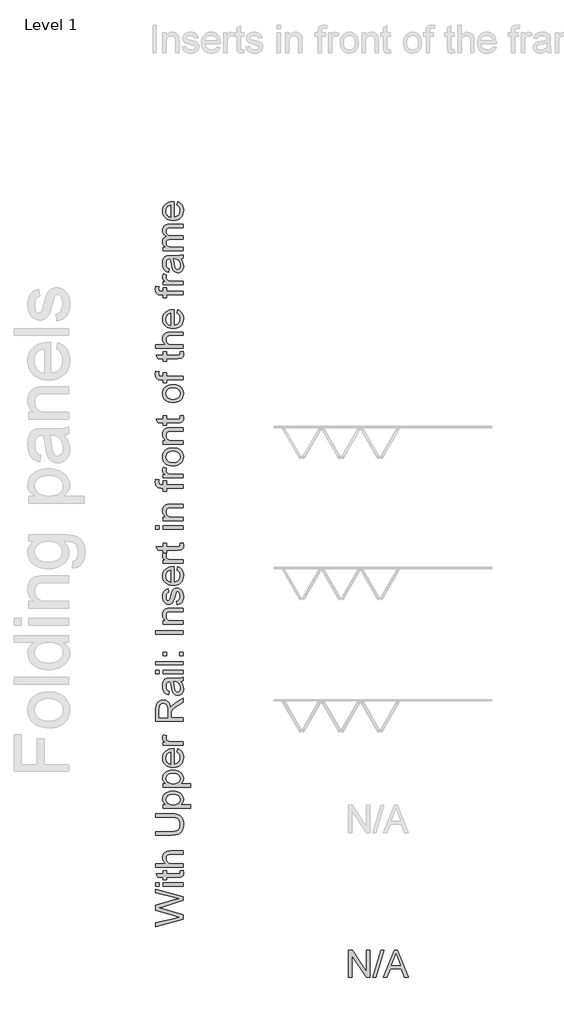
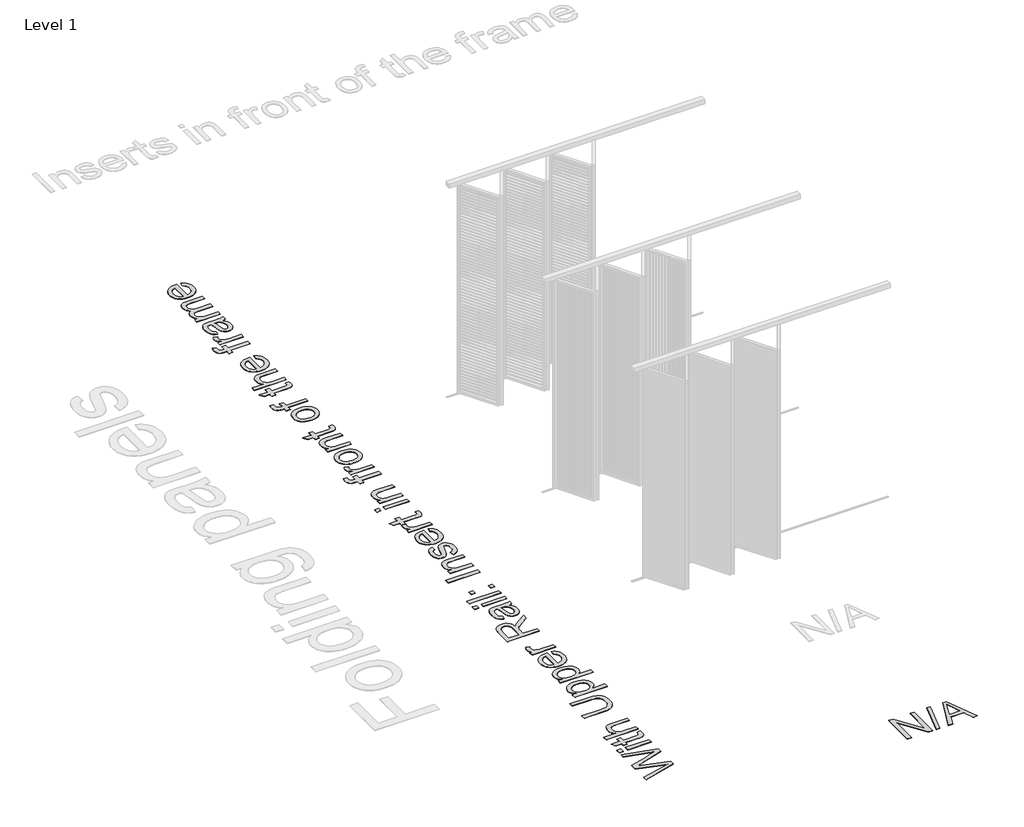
# One storey, part 17 of 80: 2 proxies.
"""IFC4 building model written with IfcOpenShell, lengths in millimetres."""

from ifc_helpers import new_model, si_unit, origin, origin_with_axes, place, context, project, spatial, polyline, outline, extrude, element, save

model = new_model("IFC4")

# Units and contexts
model_context = context("Model", 3, world=origin())
ifc_project = project(units=[si_unit("LENGTHUNIT", "METRE", prefix="MILLI")], contexts=[model_context])

# Site, building, storey
site = spatial("IfcSite", under=ifc_project)
building = spatial("IfcBuilding", under=site)
storey = spatial("IfcBuildingStorey", under=building, Name="Level 1", Elevation=0.0)

# Proxies
placement = place(None, origin())
element("IfcBuildingElementProxy", 1, Name="500mm Arial", ObjectType="500mm Arial", at=placement, inside=storey, context=model_context, shape_type="SweptSolid", body=[
    extrude(outline(polyline([(393682.1198654, -63862.1776025), (393682.1198654, -63359.8960518), (393749.3196432, -63359.8960518), (394011.7421331, -63757.8217432), (394011.7421331, -63359.8960518), (394074.5273269, -63359.8960518), (394074.5273269, -63862.1776025), (394007.3275491, -63862.1776025), (393744.9050592, -63464.1292837), (393744.9050592, -63862.1776025), (393682.1198654, -63862.1776025)])), origin_with_axes(), (0.0, 0.0, 1.0), 5.0),
    extrude(outline(polyline([(394322.1119097, -63862.1776025), (394522.607597, -63359.8960518), (394576.0731137, -63359.8960518), (394776.568801, -63862.1776025), (394710.2274146, -63862.1776025), (394652.715196, -63705.2146179), (394445.8428874, -63705.2146179), (394388.4532961, -63862.1776025), (394322.1119097, -63862.1776025)]), holes=[polyline([(394468.8968257, -63642.4294241), (394629.783885, -63642.4294241), (394584.5343995, -63518.943701), (394549.3403553, -63422.6812456), (394518.0703858, -63508.1524958), (394468.8968257, -63642.4294241)])]), origin_with_axes(), (0.0, 0.0, 1.0), 5.0),
    extrude(outline(polyline([(394129.4643715, -63862.1776025), (394270.7310577, -63359.8960518), (394327.3848849, -63359.8960518), (394186.1181988, -63862.1776025), (394129.4643715, -63862.1776025)])), origin_with_axes(), (0.0, 0.0, 1.0), 5.0),
])
element("IfcBuildingElementProxy", 2, Name="500mm Arial", ObjectType="500mm Arial", at=placement, inside=storey, context=model_context, shape_type="SweptSolid", body=[
    extrude(outline(polyline([(390638.2731482, -62789.962909), (390135.9915975, -62926.9376386), (390135.9915975, -62862.1904074), (390466.1043745, -62782.7278965), (390568.0076872, -62758.2024301), (390477.8765983, -62731.9601811), (390135.9915975, -62632.3867878), (390135.9915975, -62539.0673883), (390383.8214349, -62466.7172626), (390475.7919337, -62435.7232045), (390568.0076872, -62412.883864), (390469.0474305, -62389.0941616), (390135.9915975, -62308.8958867), (390135.9915975, -62244.1486555), (390638.2731482, -62381.2460124), (390638.2731482, -62448.3231629), (390250.77078, -62568.7432026), (390196.6921267, -62585.5431471), (390261.8072398, -62604.4277561), (390638.2731482, -62714.179218), (390638.2731482, -62789.962909)])), origin_with_axes(), (0.0, 0.0, 1.0), 5.0),
    extrude(outline(polyline([(390638.2731482, -62189.2116109), (390269.4101344, -62189.2116109), (390269.4101344, -62126.4264171), (390638.2731482, -62126.4264171), (390638.2731482, -62189.2116109)])), origin_with_axes(), (0.0, 0.0, 1.0), 5.0),
    extrude(outline(polyline([(390198.7767913, -62189.2116109), (390135.9915975, -62189.2116109), (390135.9915975, -62126.4264171), (390198.7767913, -62126.4264171), (390198.7767913, -62189.2116109)])), origin_with_axes(), (0.0, 0.0, 1.0), 5.0),
    extrude(outline(polyline([(390585.9112776, -61898.8300894), (390640.1125582, -61890.9819402), (390646.1212975, -61937.9482082), (390643.5154667, -61968.083875), (390635.6979743, -61990.5553335), (390623.6498389, -62006.435573), (390608.3520793, -62016.7975825), (390582.0791735, -62022.4997534), (390537.1055996, -62024.4004771), (390332.1953282, -62024.4004771), (390332.1953282, -62071.4893725), (390269.4101344, -62071.4893725), (390269.4101344, -62024.4004771), (390179.7695549, -62024.4004771), (390142.8587281, -61961.6152832), (390269.4101344, -61961.6152832), (390269.4101344, -61898.8300894), (390332.1953282, -61898.8300894), (390332.1953282, -61961.6152832), (390535.2661896, -61961.6152832), (390567.6398052, -61958.3043453), (390579.1054607, -61947.5744538), (390583.3361036, -61926.1759844), (390585.9112776, -61898.8300894)])), origin_with_axes(), (0.0, 0.0, 1.0), 5.0),
    extrude(outline(polyline([(390638.2731482, -61836.0448955), (390135.9915975, -61836.0448955), (390135.9915975, -61773.2597017), (390320.6683591, -61773.2597017), (390294.8093205, -61750.1980991), (390276.3385786, -61724.3007395), (390265.2561335, -61695.5676228), (390261.5619852, -61663.9987491), (390265.5933587, -61626.0762468), (390277.6874793, -61593.4880334), (390296.8939851, -61567.8282642), (390322.2625144, -61550.6910946), (390357.1193334, -61541.0341922), (390404.7907086, -61537.8152248), (390638.2731482, -61537.8152248), (390638.2731482, -61600.6004186), (390411.2899572, -61600.6004186), (390371.9878974, -61605.5974824), (390356.9813777, -61611.8438121), (390345.0711981, -61620.5886737), (390336.0044397, -61631.6251336), (390329.5281838, -61644.7462581), (390324.347179, -61677.242501), (390327.842058, -61703.7759899), (390338.3266948, -61728.6846666), (390354.7894141, -61749.3167152), (390376.2185403, -61763.0203195), (390404.6987381, -61770.6998562), (390442.3146721, -61773.2597017), (390638.2731482, -61773.2597017), (390638.2731482, -61836.0448955)])), origin_with_axes(), (0.0, 0.0, 1.0), 5.0),
    extrude(outline(polyline([(390135.9915975, -60917.8114356), (390135.9915975, -60855.0262417), (390425.7599824, -60855.0262417), (390493.618882, -60859.2875415), (390545.8734538, -60872.0714409), (390567.0649895, -60882.3031588), (390586.1871891, -60895.9531137), (390603.2400524, -60913.0213054), (390618.2235795, -60933.507734), (390630.4288311, -60957.4353922), (390639.146868, -60984.8272724), (390644.3776901, -61015.6833747), (390646.1212975, -61050.0036992), (390644.6037842, -61083.4771286), (390640.0512445, -61113.7545833), (390632.4636784, -61140.8360631), (390621.8410858, -61164.721568), (390608.340583, -61185.4149302), (390592.1192863, -61202.9199818), (390573.1771956, -61217.2367228), (390551.514311, -61228.3651532), (390526.3872043, -61236.7076438), (390497.0524473, -61242.6665657), (390425.7599824, -61247.4337033), (390135.9915975, -61247.4337033), (390135.9915975, -61184.6485094), (390423.5526904, -61184.6485094), (390479.9765914, -61181.5521693), (390519.2633228, -61172.2631489), (390546.471262, -61155.4325476), (390566.6587865, -61129.7114648), (390579.1667743, -61096.1728896), (390583.3361036, -61055.8898111), (390581.2744316, -61021.2859109), (390575.0894156, -60992.0316281), (390564.7810555, -60968.1269626), (390550.3493514, -60949.5719145), (390530.054528, -60935.676705), (390502.15681, -60925.7515553), (390466.6561975, -60919.7964655), (390423.5526904, -60917.8114356), (390135.9915975, -60917.8114356)])), origin_with_axes(), (0.0, 0.0, 1.0), 5.0),
    extrude(outline(polyline([(390779.5398344, -60753.0003017), (390269.4101344, -60753.0003017), (390269.4101344, -60690.2151079), (390330.9690549, -60690.2151079), (390300.6034619, -60669.7363435), (390278.9137526, -60646.8050325), (390265.899927, -60620.0722742), (390261.5619852, -60588.1891679), (390263.0794984, -60566.292525), (390267.6320381, -60545.7294543), (390275.2196042, -60526.4999558), (390285.8421969, -60508.6040296), (390299.2239044, -60492.4325502), (390315.0888155, -60478.3763923), (390354.268248, -60456.610041), (390400.5294088, -60443.4582596), (390451.0212127, -60439.0743325), (390504.7166556, -60444.025411), (390552.7405844, -60458.8786466), (390574.0164264, -60469.899778), (390592.6557808, -60483.1588583), (390608.6586476, -60498.6558873), (390622.0250268, -60516.3908652), (390640.0972298, -60555.0951168), (390646.1212975, -60595.7920625), (390642.0899239, -60624.6554707), (390629.9958033, -60650.4225388), (390611.7396593, -60672.4801301), (390589.2222155, -60690.2151079), (390779.5398344, -60690.2151079), (390779.5398344, -60753.0003017)]), holes=[polyline([(390456.7846973, -60690.2151079), (390487.0429914, -60688.5174858), (390513.0706425, -60683.4246194), (390534.8676508, -60674.9365088), (390552.434016, -60663.0531539), (390565.9536793, -60648.7479093), (390575.6105817, -60632.9941292), (390581.4047231, -60615.7918139), (390583.3361036, -60597.1409631), (390581.3357453, -60578.2218651), (390575.3346702, -60560.7053172), (390565.3328785, -60544.5913194), (390551.33037, -60529.8798717), (390533.1278755, -60517.6209706), (390510.5261254, -60508.8646127), (390483.5251198, -60503.610798), (390452.1248587, -60501.8595264), (390422.1271477, -60503.5686448), (390396.1454817, -60508.6960001), (390374.1798609, -60517.2415923), (390356.2302853, -60529.2054213), (390342.2814263, -60543.545155), (390332.3179556, -60559.2184608), (390326.3398732, -60576.2253389), (390324.347179, -60594.5657892), (390326.4663326, -60612.8487579), (390332.8237933, -60630.0510733), (390343.4195612, -60646.1727353), (390358.2536362, -60661.213744), (390377.126749, -60673.9018407), (390399.8396301, -60682.9647669), (390426.3922795, -60688.4025227), (390456.7846973, -60690.2151079)])]), origin_with_axes(), (0.0, 0.0, 1.0), 5.0),
    extrude(outline(polyline([(390779.5398344, -60368.4409895), (390269.4101344, -60368.4409895), (390269.4101344, -60305.6557956), (390330.9690549, -60305.6557956), (390300.6034619, -60285.1770312), (390278.9137526, -60262.2457202), (390265.899927, -60235.5129619), (390261.5619852, -60203.6298556), (390263.0794984, -60181.7332127), (390267.6320381, -60161.170142), (390275.2196042, -60141.9406436), (390285.8421969, -60124.0447173), (390299.2239044, -60107.873238), (390315.0888155, -60093.8170801), (390354.268248, -60072.0507287), (390400.5294088, -60058.8989473), (390451.0212127, -60054.5150202), (390504.7166556, -60059.4660988), (390552.7405844, -60074.3193343), (390574.0164264, -60085.3404658), (390592.6557808, -60098.599546), (390608.6586476, -60114.096575), (390622.0250268, -60131.8315529), (390640.0972298, -60170.5358045), (390646.1212975, -60211.2327502), (390642.0899239, -60240.0961584), (390629.9958033, -60265.8632265), (390611.7396593, -60287.9208178), (390589.2222155, -60305.6557956), (390779.5398344, -60305.6557956), (390779.5398344, -60368.4409895)]), holes=[polyline([(390456.7846973, -60305.6557956), (390487.0429914, -60303.9581735), (390513.0706425, -60298.8653071), (390534.8676508, -60290.3771965), (390552.434016, -60278.4938416), (390565.9536793, -60264.188597), (390575.6105817, -60248.4348169), (390581.4047231, -60231.2325016), (390583.3361036, -60212.5816508), (390581.3357453, -60193.6625528), (390575.3346702, -60176.1460049), (390565.3328785, -60160.0320071), (390551.33037, -60145.3205594), (390533.1278755, -60133.0616583), (390510.5261254, -60124.3053004), (390483.5251198, -60119.0514857), (390452.1248587, -60117.3002141), (390422.1271477, -60119.0093325), (390396.1454817, -60124.1366878), (390374.1798609, -60132.68228), (390356.2302853, -60144.6461091), (390342.2814263, -60158.9858427), (390332.3179556, -60174.6591485), (390326.3398732, -60191.6660266), (390324.347179, -60210.0064769), (390326.4663326, -60228.2894456), (390332.8237933, -60245.491761), (390343.4195612, -60261.613423), (390358.2536362, -60276.6544317), (390377.126749, -60289.3425284), (390399.8396301, -60298.4054546), (390426.3922795, -60303.8432104), (390456.7846973, -60305.6557956)])]), origin_with_axes(), (0.0, 0.0, 1.0), 5.0),
    extrude(outline(polyline([(390528.399059, -59725.6285166), (390536.2472082, -59664.069596), (390560.9029661, -59673.5080685), (390582.6309965, -59686.2498146), (390601.4312993, -59702.2948346), (390617.3038745, -59721.6431283), (390629.9114971, -59744.0954263), (390638.9169417, -59769.4524592), (390644.3202085, -59797.7142271), (390646.1212975, -59828.8807299), (390643.013461, -59867.8379003), (390633.6899517, -59902.5490994), (390618.1507695, -59933.0143271), (390596.3959144, -59959.2335835), (390569.030859, -59980.3178203), (390536.6610755, -59995.3779895), (390499.286564, -60004.414091), (390456.9073246, -60007.4261249), (390413.0910461, -60004.3834342), (390374.4711009, -59995.2553622), (390341.0474888, -59980.0419088), (390312.8202098, -59958.7430742), (390290.3947365, -59932.5927957), (390274.3765413, -59902.8250109), (390264.7656242, -59869.4397198), (390261.5619852, -59832.4369225), (390264.75796, -59796.6259095), (390274.3458845, -59764.2407976), (390290.3257587, -59735.2815868), (390312.6975825, -59709.7482771), (390340.8635478, -59688.9054628), (390374.2258462, -59674.0177383), (390412.7844778, -59665.0851036), (390456.5394426, -59662.1075587), (390473.4620144, -59662.4754407), (390473.4620144, -59944.640931), (390498.5163111, -59941.0042642), (390520.4589393, -59933.7730837), (390539.2898989, -59922.9473896), (390555.00919, -59908.5271818), (390567.4022147, -59891.309538), (390576.2543752, -59872.0915359), (390581.5656715, -59850.8731754), (390583.3361036, -59827.6544565), (390580.0558225, -59794.2385087), (390570.2149791, -59766.095536), (390553.2004368, -59743.2255387), (390528.399059, -59725.6285166)]), holes=[polyline([(390410.6768206, -59944.640931), (390410.6768206, -59724.8927526), (390377.5061273, -59733.3846953), (390353.7777386, -59750.0313556), (390340.9018688, -59767.1531968), (390331.7048189, -59786.6356141), (390326.186589, -59808.4786075), (390324.347179, -59832.6821771), (390330.2179625, -59875.003935), (390337.5564419, -59893.4171953), (390347.830313, -59909.9987098), (390360.564395, -59923.9130798), (390375.2835069, -59934.3249067), (390391.9876488, -59941.2341905), (390410.6768206, -59944.640931)])]), origin_with_axes(), (0.0, 0.0, 1.0), 5.0),
    extrude(outline(polyline([(390638.2731482, -59599.3223649), (390269.4101344, -59599.3223649), (390269.4101344, -59544.3853203), (390323.979297, -59544.3853203), (390292.3414454, -59524.0904969), (390273.702091, -59505.3898288), (390264.5970116, -59486.627847), (390261.5619852, -59466.1490826), (390266.4057648, -59434.879113), (390280.9371036, -59403.1186341), (390337.2230488, -59424.0879078), (390327.5661465, -59446.1608275), (390324.347179, -59468.2337473), (390327.4435191, -59486.9804006), (390336.7325395, -59503.7343598), (390351.509133, -59517.2693515), (390371.0681924, -59526.3591025), (390406.1396093, -59533.9926539), (390444.3993368, -59536.537171), (390638.2731482, -59536.537171), (390638.2731482, -59599.3223649)])), origin_with_axes(), (0.0, 0.0, 1.0), 5.0),
    extrude(outline(polyline([(390638.2731482, -59159.826008), (390135.9915975, -59159.826008), (390135.9915975, -58943.3887675), (390139.3791775, -58885.217427), (390149.5419176, -58842.8956691), (390168.3038994, -58811.9629247), (390197.4892043, -58787.9586245), (390233.6795956, -58772.553566), (390273.4568363, -58767.4185464), (390299.2545613, -58769.5453642), (390322.9369647, -58775.9258176), (390344.5040467, -58786.5599065), (390363.9558072, -58801.447631), (390380.6714453, -58820.7805963), (390394.0301603, -58844.7504075), (390404.031952, -58873.3570647), (390410.6768206, -58906.600568), (390424.1964839, -58885.9072057), (390437.5322062, -58870.9160144), (390502.15681, -58820.0256718), (390638.2731482, -58736.2712042), (390638.2731482, -58809.2344666), (390534.1625436, -58874.5948344), (390465.2459832, -58921.8063571), (390445.1504292, -58939.3573939), (390432.6884266, -58954.9770503), (390420.7322618, -58984.8368056), (390418.5249698, -59021.2571231), (390418.5249698, -59097.0408141), (390638.2731482, -59097.0408141), (390638.2731482, -59159.826008)]), holes=[polyline([(390355.7397759, -59097.0408141), (390355.7397759, -58956.509892), (390353.5171555, -58916.1501714), (390346.8492944, -58884.8342166), (390335.2916684, -58861.259112), (390318.3997534, -58844.1219424), (390297.9669743, -58833.6832908), (390275.7867557, -58830.2037403), (390259.7302394, -58831.8630414), (390245.1605796, -58836.8409446), (390232.0777761, -58845.13745), (390220.481829, -58856.7525576), (390210.985875, -58871.9545146), (390204.2030508, -58891.0115684), (390198.7767913, -58940.6909662), (390198.7767913, -59097.0408141), (390355.7397759, -59097.0408141)])]), origin_with_axes(), (0.0, 0.0, 1.0), 5.0),
    extrude(outline(polyline([(390591.1842529, -58429.9481295), (390616.9053357, -58459.9458406), (390633.735937, -58490.8325997), (390643.0249573, -58523.3135142), (390646.1212975, -58558.0936912), (390644.2588949, -58586.0488907), (390638.6716871, -58610.5628608), (390629.3596741, -58631.6356013), (390616.3228559, -58649.2671123), (390600.3889669, -58663.1891466), (390582.3857418, -58673.1334568), (390562.3131804, -58679.1000429), (390540.1712829, -58681.0889049), (390514.1436317, -58678.0845353), (390490.5072135, -58669.0714264), (390470.2737038, -58655.1685527), (390454.454778, -58637.4948885), (390442.4986131, -58616.7248842), (390433.8533862, -58593.5329901), (390424.4110817, -58539.2090821), (390414.4782678, -58475.0136739), (390402.8286713, -58430.3160115), (390388.8491555, -58429.9481295), (390360.8288102, -58434.270743), (390342.4960241, -58447.2385833), (390334.5559044, -58460.3137226), (390328.8843903, -58476.2399473), (390324.347179, -58516.6456531), (390327.3668771, -58554.0469892), (390336.4259712, -58580.1666109), (390353.1799304, -58597.9782308), (390379.2842236, -58610.4555618), (390371.4360744, -58673.2407557), (390337.1004215, -58662.3422516), (390310.1224085, -58646.0788017), (390289.49036, -58622.9328928), (390274.1926003, -58591.3870118), (390264.719639, -58552.8053875), (390261.5619852, -58508.5522492), (390264.351757, -58466.107864), (390272.7210724, -58432.4619898), (390285.3057023, -58407.0934606), (390300.7414177, -58389.4811101), (390319.8252962, -58377.8008567), (390343.3544154, -58370.228619), (390398.29146, -58367.1629357), (390476.4050704, -58367.1629357), (390585.4820819, -58363.9746251), (390612.4447665, -58359.2534728), (390638.2731482, -58351.4666372), (390638.2731482, -58414.2518311), (390616.4454832, -58424.3072723), (390591.1842529, -58429.9481295)]), holes=[polyline([(390465.6138652, -58429.9481295), (390476.0678452, -58472.1319317), (390484.8663562, -58531.2383055), (390495.0444248, -58585.2556452), (390502.0035259, -58599.3118031), (390511.5991146, -58609.7197978), (390523.0954269, -58616.1577328), (390535.7566989, -58618.3037111), (390554.4267102, -58613.628544), (390569.7244698, -58599.603043), (390579.9331952, -58576.5337762), (390583.3361036, -58544.727312), (390579.5806416, -58511.0047958), (390568.3142555, -58481.2063542), (390551.7135805, -58457.0487698), (390531.9552516, -58440.2488254), (390511.5991146, -58432.799215), (390483.3948283, -58430.3160115), (390465.6138652, -58429.9481295)])]), origin_with_axes(), (0.0, 0.0, 1.0), 5.0),
    extrude(outline(polyline([(390638.2731482, -58280.8332942), (390269.4101344, -58280.8332942), (390269.4101344, -58218.0481003), (390638.2731482, -58218.0481003), (390638.2731482, -58280.8332942)])), origin_with_axes(), (0.0, 0.0, 1.0), 5.0),
    extrude(outline(polyline([(390198.7767913, -58280.8332942), (390135.9915975, -58280.8332942), (390135.9915975, -58218.0481003), (390198.7767913, -58218.0481003), (390198.7767913, -58280.8332942)])), origin_with_axes(), (0.0, 0.0, 1.0), 5.0),
    extrude(outline(polyline([(390638.2731482, -58123.8703096), (390135.9915975, -58123.8703096), (390135.9915975, -58061.0851157), (390638.2731482, -58061.0851157), (390638.2731482, -58123.8703096)])), origin_with_axes(), (0.0, 0.0, 1.0), 5.0),
    extrude(outline(polyline([(390638.2731482, -57951.2110265), (390575.4879544, -57951.2110265), (390575.4879544, -57888.4258326), (390638.2731482, -57888.4258326), (390638.2731482, -57951.2110265)])), origin_with_axes(), (0.0, 0.0, 1.0), 5.0),
    extrude(outline(polyline([(390332.1953282, -57951.2110265), (390269.4101344, -57951.2110265), (390269.4101344, -57888.4258326), (390332.1953282, -57888.4258326), (390332.1953282, -57951.2110265)])), origin_with_axes(), (0.0, 0.0, 1.0), 5.0),
    extrude(outline(polyline([(390638.2731482, -57558.803565), (390135.9915975, -57558.803565), (390135.9915975, -57496.0183711), (390638.2731482, -57496.0183711), (390638.2731482, -57558.803565)])), origin_with_axes(), (0.0, 0.0, 1.0), 5.0),
    extrude(outline(polyline([(390638.2731482, -57378.2961327), (390269.4101344, -57378.2961327), (390269.4101344, -57315.5109388), (390320.9136137, -57315.5109388), (390294.9472762, -57293.6986022), (390276.3998923, -57267.5023384), (390265.271462, -57236.9221476), (390261.5619852, -57201.9580296), (390264.5510264, -57171.0099568), (390273.51815, -57142.6677147), (390287.3443817, -57119.0312966), (390304.9107469, -57102.2006953), (390326.1712606, -57090.781025), (390351.0799373, -57083.3773999), (390411.7804665, -57080.0664619), (390638.2731482, -57080.0664619), (390638.2731482, -57142.8516557), (390420.2417524, -57142.8516557), (390387.7761664, -57144.6604089), (390364.6915712, -57150.0866683), (390348.1522098, -57160.0961243), (390335.3223252, -57175.654467), (390327.0909656, -57195.5967368), (390324.347179, -57218.7579741), (390325.8876849, -57237.8226921), (390330.5092024, -57255.5308452), (390338.2117317, -57271.8824334), (390348.9952727, -57286.8774569), (390364.0860987, -57299.4046052), (390384.7104831, -57308.3525683), (390410.8684258, -57313.7213462), (390442.5599268, -57315.5109388), (390638.2731482, -57315.5109388), (390638.2731482, -57378.2961327)])), origin_with_axes(), (0.0, 0.0, 1.0), 5.0),
    extrude(outline(polyline([(390528.399059, -57017.2812681), (390520.5509098, -56954.4960742), (390547.4062954, -56944.5939172), (390567.1492958, -56925.4333966), (390579.2894017, -56896.8918851), (390583.3361036, -56858.8467555), (390579.6266268, -56821.2614783), (390568.4981965, -56794.8352883), (390552.3727024, -56779.2003035), (390533.6720343, -56773.9886419), (390517.6691675, -56779.2309603), (390505.467748, -56794.9579156), (390487.5641575, -56859.5825195), (390470.9941393, -56916.8801402), (390456.8460109, -56954.1281922), (390441.4102956, -56978.0558503), (390420.9775164, -56995.3922893), (390396.8505889, -57005.9229115), (390370.3324284, -57009.4331188), (390346.0062315, -57006.6126902), (390323.5501014, -56998.1514043), (390303.8530862, -56984.815682), (390287.8042342, -56967.371944), (390277.7028077, -56950.035505), (390269.2261934, -56927.4567476), (390263.4780372, -56901.3524543), (390261.5619852, -56873.4394079), (390264.6429969, -56832.5738496), (390273.886032, -56797.0425803), (390288.386714, -56768.470412), (390307.2406662, -56748.4821569), (390331.8427747, -56735.2384051), (390363.5879252, -56726.8997465), (390371.4360744, -56789.6849404), (390351.6777456, -56797.6097317), (390336.7938532, -56813.2907017), (390327.4588476, -56836.8811347), (390324.347179, -56868.5343147), (390327.3208918, -56904.5867502), (390336.2420302, -56928.6217072), (390349.1179, -56942.1413705), (390363.9558072, -56946.647925), (390373.6127095, -56944.7778582), (390382.2272796, -56939.1676577), (390389.9221447, -56929.572069), (390396.0841681, -56915.7458374), (390409.4505472, -56861.6671841), (390439.0037342, -56769.5127443), (390453.1365342, -56745.171219), (390472.4809957, -56726.7158055), (390497.0984326, -56715.0815374), (390527.0501584, -56711.2034481), (390558.0135596, -56715.7559878), (390587.1375509, -56729.4136068), (390612.1381982, -56751.6551391), (390630.7315673, -56781.9594185), (390642.2738649, -56818.563677), (390646.1212975, -56859.7051468), (390644.2665591, -56893.4966409), (390638.7023439, -56923.0115068), (390629.4286519, -56948.2497445), (390616.4454832, -56969.211354), (390599.8141513, -56986.3331952), (390579.59597, -57000.052128), (390555.7909392, -57010.3681522), (390528.399059, -57017.2812681)])), origin_with_axes(), (0.0, 0.0, 1.0), 5.0),
    extrude(outline(polyline([(390528.399059, -56382.3169444), (390536.2472082, -56320.7580239), (390560.9029661, -56330.1964963), (390582.6309965, -56342.9382425), (390601.4312993, -56358.9832624), (390617.3038745, -56378.3315561), (390629.9114971, -56400.7838541), (390638.9169417, -56426.1408871), (390644.3202085, -56454.4026549), (390646.1212975, -56485.5691577), (390643.013461, -56524.5263281), (390633.6899517, -56559.2375272), (390618.1507695, -56589.702755), (390596.3959144, -56615.9220113), (390569.030859, -56637.0062482), (390536.6610755, -56652.0664173), (390499.286564, -56661.1025189), (390456.9073246, -56664.1145527), (390413.0910461, -56661.071862), (390374.4711009, -56651.94379), (390341.0474888, -56636.7303367), (390312.8202098, -56615.431502), (390290.3947365, -56589.2812235), (390274.3765413, -56559.5134387), (390264.7656242, -56526.1281477), (390261.5619852, -56489.1253503), (390264.75796, -56453.3143373), (390274.3458845, -56420.9292255), (390290.3257587, -56391.9700147), (390312.6975825, -56366.4367049), (390340.8635478, -56345.5938906), (390374.2258462, -56330.7061661), (390412.7844778, -56321.7735314), (390456.5394426, -56318.7959865), (390473.4620144, -56319.1638685), (390473.4620144, -56601.3293588), (390498.5163111, -56597.692692), (390520.4589393, -56590.4615116), (390539.2898989, -56579.6358174), (390555.00919, -56565.2156097), (390567.4022147, -56547.9979659), (390576.2543752, -56528.7799637), (390581.5656715, -56507.5616032), (390583.3361036, -56484.3428844), (390580.0558225, -56450.9269365), (390570.2149791, -56422.7839639), (390553.2004368, -56399.9139665), (390528.399059, -56382.3169444)]), holes=[polyline([(390410.6768206, -56601.3293588), (390410.6768206, -56381.5811804), (390377.5061273, -56390.0731231), (390353.7777386, -56406.7197834), (390340.9018688, -56423.8416246), (390331.7048189, -56443.3240419), (390326.186589, -56465.1670354), (390324.347179, -56489.370605), (390330.2179625, -56531.6923628), (390337.5564419, -56550.1056231), (390347.830313, -56566.6871376), (390360.564395, -56580.6015077), (390375.2835069, -56591.0133346), (390391.9876488, -56597.9226183), (390410.6768206, -56601.3293588)])]), origin_with_axes(), (0.0, 0.0, 1.0), 5.0),
    extrude(outline(polyline([(390585.9112776, -55887.1477789), (390640.1125582, -55879.2996296), (390646.1212975, -55926.2658977), (390643.5154667, -55956.4015645), (390635.6979743, -55978.873023), (390623.6498389, -55994.7532625), (390608.3520793, -56005.115272), (390582.0791735, -56010.8174429), (390537.1055996, -56012.7181666), (390332.1953282, -56012.7181666), (390332.1953282, -56059.8070619), (390280.9371036, -56059.8070619), (390269.4101344, -56059.8070619), (390269.4101344, -56012.7181666), (390179.7695549, -56012.7181666), (390142.8587281, -55949.9329727), (390269.4101344, -55949.9329727), (390269.4101344, -55887.1477789), (390332.1953282, -55887.1477789), (390332.1953282, -55949.9329727), (390535.2661896, -55949.9329727), (390567.6398052, -55946.6220348), (390579.1054607, -55935.8921432), (390583.3361036, -55914.4936739), (390585.9112776, -55887.1477789)])), origin_with_axes(), (0.0, 0.0, 1.0), 5.0),
    extrude(outline(polyline([(390638.2731482, -56256.0107927), (390269.4101344, -56256.0107927), (390269.4101344, -56201.0737481), (390323.979297, -56201.0737481), (390292.3414454, -56180.7789247), (390273.702091, -56162.0782566), (390264.5970116, -56143.3162749), (390261.5619852, -56122.8375105), (390266.4057648, -56091.5675409), (390280.9371036, -56059.8070619), (390337.2230488, -56080.7763357), (390327.5661465, -56102.8492554), (390324.347179, -56124.9221751), (390327.4435191, -56143.6688284), (390336.7325395, -56160.4227876), (390351.509133, -56173.9577794), (390371.0681924, -56183.0475303), (390406.1396093, -56190.6810817), (390444.3993368, -56193.2255989), (390638.2731482, -56193.2255989), (390638.2731482, -56256.0107927)])), origin_with_axes(), (0.0, 0.0, 1.0), 5.0),
    extrude(outline(polyline([(390198.7767913, -55628.1588543), (390135.9915975, -55628.1588543), (390135.9915975, -55565.3736604), (390198.7767913, -55565.3736604), (390198.7767913, -55628.1588543)])), origin_with_axes(), (0.0, 0.0, 1.0), 5.0),
    extrude(outline(polyline([(390638.2731482, -55628.1588543), (390269.4101344, -55628.1588543), (390269.4101344, -55565.3736604), (390638.2731482, -55565.3736604), (390638.2731482, -55628.1588543)])), origin_with_axes(), (0.0, 0.0, 1.0), 5.0),
    extrude(outline(polyline([(390638.2731482, -55471.1958697), (390269.4101344, -55471.1958697), (390269.4101344, -55408.4106758), (390320.9136137, -55408.4106758), (390294.9472762, -55386.5983392), (390276.3998923, -55360.4020754), (390265.271462, -55329.8218846), (390261.5619852, -55294.8577666), (390264.5510264, -55263.9096938), (390273.51815, -55235.5674518), (390287.3443817, -55211.9310336), (390304.9107469, -55195.1004323), (390326.1712606, -55183.680762), (390351.0799373, -55176.2771369), (390411.7804665, -55172.9661989), (390638.2731482, -55172.9661989), (390638.2731482, -55235.7513927), (390420.2417524, -55235.7513927), (390387.7761664, -55237.5601459), (390364.6915712, -55242.9864053), (390348.1522098, -55252.9958613), (390335.3223252, -55268.554204), (390327.0909656, -55288.4964738), (390324.347179, -55311.6577111), (390325.8876849, -55330.7224291), (390330.5092024, -55348.4305822), (390338.2117317, -55364.7821705), (390348.9952727, -55379.7771939), (390364.0860987, -55392.3043422), (390384.7104831, -55401.2523053), (390410.8684258, -55406.6210832), (390442.5599268, -55408.4106758), (390638.2731482, -55408.4106758), (390638.2731482, -55471.1958697)])), origin_with_axes(), (0.0, 0.0, 1.0), 5.0),
    extrude(outline(polyline([(390638.2731482, -54874.7365281), (390332.1953282, -54874.7365281), (390332.1953282, -54929.6735728), (390269.4101344, -54929.6735728), (390269.4101344, -54874.7365281), (390232.2540529, -54874.7365281), (390201.5052495, -54873.0810592), (390179.8921822, -54868.1146522), (390159.014879, -54855.4840371), (390142.4908461, -54835.9862913), (390131.7302977, -54808.70171), (390128.1434483, -54772.7105882), (390135.0105788, -54715.4436242), (390193.8716981, -54724.6406741), (390190.9286421, -54760.815737), (390193.5344729, -54784.6820814), (390201.3519653, -54800.3630515), (390216.2818429, -54809.0542636), (390240.2248295, -54811.9513343), (390269.4101344, -54811.9513343), (390269.4101344, -54741.3179912), (390332.1953282, -54741.3179912), (390332.1953282, -54811.9513343), (390638.2731482, -54811.9513343), (390638.2731482, -54874.7365281)])), origin_with_axes(), (0.0, 0.0, 1.0), 5.0),
    extrude(outline(polyline([(390638.2731482, -54686.3809466), (390269.4101344, -54686.3809466), (390269.4101344, -54631.443902), (390323.979297, -54631.443902), (390292.3414454, -54611.1490786), (390273.702091, -54592.4484105), (390264.5970116, -54573.6864288), (390261.5619852, -54553.2076644), (390266.4057648, -54521.9376948), (390280.9371036, -54490.1772159), (390337.2230488, -54511.1464896), (390327.5661465, -54533.2194093), (390324.347179, -54555.292329), (390327.4435191, -54574.0389823), (390336.7325395, -54590.7929415), (390351.509133, -54604.3279333), (390371.0681924, -54613.4176842), (390406.1396093, -54621.0512356), (390444.3993368, -54623.5957528), (390638.2731482, -54623.5957528), (390638.2731482, -54686.3809466)])), origin_with_axes(), (0.0, 0.0, 1.0), 5.0),
    extrude(outline(polyline([(390453.8416413, -54466.6327682), (390406.0706314, -54463.2375239), (390364.906169, -54453.0517912), (390330.3482541, -54436.0755699), (390302.3968866, -54412.3088602), (390284.5316172, -54388.3812021), (390271.7707105, -54361.9703405), (390264.1141665, -54333.0762755), (390261.5619852, -54301.699007), (390264.6698216, -54267.0606179), (390273.9933309, -54235.7408309), (390289.5325131, -54207.7396462), (390311.2873682, -54183.0570636), (390338.5221321, -54162.9116922), (390370.501041, -54148.5221413), (390407.2240947, -54139.8884107), (390448.6912934, -54137.0105005), (390512.1202807, -54142.0995348), (390538.1555961, -54148.4608276), (390560.4047926, -54157.3666376), (390579.6227947, -54168.7058336), (390596.564527, -54182.3672848), (390611.2299895, -54198.3509911), (390623.6191821, -54216.6569524), (390640.4957686, -54257.384555), (390646.1212975, -54301.699007), (390643.0249573, -54336.8432338), (390633.735937, -54368.4542607), (390618.2542363, -54396.5320876), (390596.5798554, -54421.0767144), (390569.0806763, -54441.0074879), (390536.1245809, -54455.2437547), (390497.7115692, -54463.7855148), (390453.8416413, -54466.6327682)]), holes=[polyline([(390453.719014, -54403.8475743), (390484.1727454, -54402.031157), (390510.5414538, -54396.5819049), (390532.8251393, -54387.4998182), (390551.0238017, -54374.7848967), (390565.1604338, -54359.3185245), (390575.2580281, -54341.9820855), (390581.3165848, -54322.7755796), (390583.3361036, -54301.699007), (390581.3050884, -54280.7297333), (390575.2120429, -54261.5998695), (390565.056967, -54244.3094157), (390550.8398607, -54228.858372), (390532.4610894, -54216.1434505), (390509.8210183, -54207.0613637), (390482.9196474, -54201.6121117), (390451.7569767, -54199.7956943), (390422.2689355, -54201.623608), (390396.5900058, -54207.107349), (390374.7201876, -54216.2469173), (390356.6594809, -54229.0423129), (390342.5228488, -54244.5508383), (390332.4252545, -54261.8297958), (390326.3666979, -54280.8791853), (390324.347179, -54301.699007), (390326.3590337, -54322.7755796), (390332.3945977, -54341.9820855), (390342.453871, -54359.3185245), (390356.5368536, -54374.7848967), (390374.6818666, -54387.4998182), (390396.927231, -54396.5819049), (390423.2729468, -54402.031157), (390453.719014, -54403.8475743)])]), origin_with_axes(), (0.0, 0.0, 1.0), 5.0),
    extrude(outline(polyline([(390638.2731482, -54066.3771574), (390269.4101344, -54066.3771574), (390269.4101344, -54003.5919636), (390320.9136137, -54003.5919636), (390294.9472762, -53981.7796269), (390276.3998923, -53955.5833632), (390265.271462, -53925.0031724), (390261.5619852, -53890.0390544), (390264.5510264, -53859.0909815), (390273.51815, -53830.7487395), (390287.3443817, -53807.1123213), (390304.9107469, -53790.28172), (390326.1712606, -53778.8620498), (390351.0799373, -53771.4584246), (390411.7804665, -53768.1474867), (390638.2731482, -53768.1474867), (390638.2731482, -53830.9326805), (390420.2417524, -53830.9326805), (390387.7761664, -53832.7414336), (390364.6915712, -53838.1676931), (390348.1522098, -53848.177149), (390335.3223252, -53863.7354917), (390327.0909656, -53883.6777616), (390324.347179, -53906.8389988), (390325.8876849, -53925.9037168), (390330.5092024, -53943.6118699), (390338.2117317, -53959.9634582), (390348.9952727, -53974.9584816), (390364.0860987, -53987.48563), (390384.7104831, -53996.4335931), (390410.8684258, -54001.8023709), (390442.5599268, -54003.5919636), (390638.2731482, -54003.5919636), (390638.2731482, -54066.3771574)])), origin_with_axes(), (0.0, 0.0, 1.0), 5.0),
    extrude(outline(polyline([(390585.9112776, -53548.3993082), (390640.1125582, -53540.551159), (390646.1212975, -53587.517427), (390643.5154667, -53617.6530938), (390635.6979743, -53640.1245523), (390623.6498389, -53656.0047918), (390608.3520793, -53666.3668013), (390582.0791735, -53672.0689723), (390537.1055996, -53673.9696959), (390332.1953282, -53673.9696959), (390332.1953282, -53721.0585913), (390269.4101344, -53721.0585913), (390269.4101344, -53673.9696959), (390179.7695549, -53673.9696959), (390142.8587281, -53611.184502), (390269.4101344, -53611.184502), (390269.4101344, -53548.3993082), (390332.1953282, -53548.3993082), (390332.1953282, -53611.184502), (390535.2661896, -53611.184502), (390567.6398052, -53607.8735641), (390579.1054607, -53597.1436726), (390583.3361036, -53575.7452032), (390585.9112776, -53548.3993082)])), origin_with_axes(), (0.0, 0.0, 1.0), 5.0),
    extrude(outline(polyline([(390453.8416413, -53305.1066821), (390406.0706314, -53301.7114378), (390364.906169, -53291.5257051), (390330.3482541, -53274.5494838), (390302.3968866, -53250.7827741), (390284.5316172, -53226.855116), (390271.7707105, -53200.4442544), (390264.1141665, -53171.5501894), (390261.5619852, -53140.1729209), (390264.6698216, -53105.5345318), (390273.9933309, -53074.2147448), (390289.5325131, -53046.2135601), (390311.2873682, -53021.5309774), (390338.5221321, -53001.3856061), (390370.501041, -52986.9960551), (390407.2240947, -52978.3623246), (390448.6912934, -52975.4844144), (390512.1202807, -52980.5734486), (390538.1555961, -52986.9347415), (390560.4047926, -52995.8405514), (390579.6227947, -53007.1797475), (390596.564527, -53020.8411987), (390611.2299895, -53036.824905), (390623.6191821, -53055.1308663), (390640.4957686, -53095.8584689), (390646.1212975, -53140.1729209), (390643.0249573, -53175.3171477), (390633.735937, -53206.9281746), (390618.2542363, -53235.0060015), (390596.5798554, -53259.5506283), (390569.0806763, -53279.4814018), (390536.1245809, -53293.7176686), (390497.7115692, -53302.2594287), (390453.8416413, -53305.1066821)]), holes=[polyline([(390453.719014, -53242.3214882), (390484.1727454, -53240.5050709), (390510.5414538, -53235.0558188), (390532.8251393, -53225.9737321), (390551.0238017, -53213.2588106), (390565.1604338, -53197.7924384), (390575.2580281, -53180.4559994), (390581.3165848, -53161.2494935), (390583.3361036, -53140.1729209), (390581.3050884, -53119.2036472), (390575.2120429, -53100.0737834), (390565.056967, -53082.7833296), (390550.8398607, -53067.3322858), (390532.4610894, -53054.6173644), (390509.8210183, -53045.5352776), (390482.9196474, -53040.0860256), (390451.7569767, -53038.2696082), (390422.2689355, -53040.0975219), (390396.5900058, -53045.5812629), (390374.7201876, -53054.7208312), (390356.6594809, -53067.5162268), (390342.5228488, -53083.0247522), (390332.4252545, -53100.3037097), (390326.3666979, -53119.3530992), (390324.347179, -53140.1729209), (390326.3590337, -53161.2494935), (390332.3945977, -53180.4559994), (390342.453871, -53197.7924384), (390356.5368536, -53213.2588106), (390374.6818666, -53225.9737321), (390396.927231, -53235.0558188), (390423.2729468, -53240.5050709), (390453.719014, -53242.3214882)])]), origin_with_axes(), (0.0, 0.0, 1.0), 5.0),
    extrude(outline(polyline([(390638.2731482, -52889.1547728), (390332.1953282, -52889.1547728), (390332.1953282, -52944.0918175), (390269.4101344, -52944.0918175), (390269.4101344, -52889.1547728), (390232.2540529, -52889.1547728), (390201.5052495, -52887.4993039), (390179.8921822, -52882.5328969), (390159.014879, -52869.9022818), (390142.4908461, -52850.404536), (390131.7302977, -52823.1199547), (390128.1434483, -52787.1288329), (390135.0105788, -52729.8618689), (390193.8716981, -52739.0589188), (390190.9286421, -52775.2339817), (390193.5344729, -52799.1003261), (390201.3519653, -52814.7812962), (390216.2818429, -52823.4725083), (390240.2248295, -52826.369579), (390269.4101344, -52826.369579), (390269.4101344, -52755.7362359), (390332.1953282, -52755.7362359), (390332.1953282, -52826.369579), (390638.2731482, -52826.369579), (390638.2731482, -52889.1547728)])), origin_with_axes(), (0.0, 0.0, 1.0), 5.0),
    extrude(outline(polyline([(390585.9112776, -52371.1769236), (390640.1125582, -52363.3287744), (390646.1212975, -52410.2950425), (390643.5154667, -52440.4307092), (390635.6979743, -52462.9021678), (390623.6498389, -52478.7824072), (390608.3520793, -52489.1444168), (390582.0791735, -52494.8465877), (390537.1055996, -52496.7473113), (390332.1953282, -52496.7473113), (390332.1953282, -52543.8362067), (390269.4101344, -52543.8362067), (390269.4101344, -52496.7473113), (390179.7695549, -52496.7473113), (390142.8587281, -52433.9621175), (390269.4101344, -52433.9621175), (390269.4101344, -52371.1769236), (390332.1953282, -52371.1769236), (390332.1953282, -52433.9621175), (390535.2661896, -52433.9621175), (390567.6398052, -52430.6511795), (390579.1054607, -52419.921288), (390583.3361036, -52398.5228186), (390585.9112776, -52371.1769236)])), origin_with_axes(), (0.0, 0.0, 1.0), 5.0),
    extrude(outline(polyline([(390638.2731482, -52308.3917298), (390135.9915975, -52308.3917298), (390135.9915975, -52245.606536), (390320.6683591, -52245.606536), (390294.8093205, -52222.5449334), (390276.3385786, -52196.6475738), (390265.2561335, -52167.9144571), (390261.5619852, -52136.3455834), (390265.5933587, -52098.423081), (390277.6874793, -52065.8348676), (390296.8939851, -52040.1750985), (390322.2625144, -52023.0379289), (390357.1193334, -52013.3810265), (390404.7907086, -52010.162059), (390638.2731482, -52010.162059), (390638.2731482, -52072.9472529), (390411.2899572, -52072.9472529), (390371.9878974, -52077.9443167), (390356.9813777, -52084.1906464), (390345.0711981, -52092.935508), (390336.0044397, -52103.9719678), (390329.5281838, -52117.0930923), (390324.347179, -52149.5893352), (390327.842058, -52176.1228241), (390338.3266948, -52201.0315009), (390354.7894141, -52221.6635494), (390376.2185403, -52235.3671538), (390404.6987381, -52243.0466904), (390442.3146721, -52245.606536), (390638.2731482, -52245.606536), (390638.2731482, -52308.3917298)])), origin_with_axes(), (0.0, 0.0, 1.0), 5.0),
    extrude(outline(polyline([(390528.399059, -51665.5792569), (390536.2472082, -51604.0203364), (390560.9029661, -51613.4588088), (390582.6309965, -51626.200555), (390601.4312993, -51642.2455749), (390617.3038745, -51661.5938686), (390629.9114971, -51684.0461666), (390638.9169417, -51709.4031996), (390644.3202085, -51737.6649674), (390646.1212975, -51768.8314702), (390643.013461, -51807.7886407), (390633.6899517, -51842.4998397), (390618.1507695, -51872.9650675), (390596.3959144, -51899.1843238), (390569.030859, -51920.2685607), (390536.6610755, -51935.3287299), (390499.286564, -51944.3648314), (390456.9073246, -51947.3768652), (390413.0910461, -51944.3341745), (390374.4711009, -51935.2061025), (390341.0474888, -51919.9926492), (390312.8202098, -51898.6938145), (390290.3947365, -51872.543536), (390274.3765413, -51842.7757512), (390264.7656242, -51809.3904602), (390261.5619852, -51772.3876628), (390264.75796, -51736.5766499), (390274.3458845, -51704.191538), (390290.3257587, -51675.2323272), (390312.6975825, -51649.6990174), (390340.8635478, -51628.8562031), (390374.2258462, -51613.9684787), (390412.7844778, -51605.035844), (390456.5394426, -51602.0582991), (390473.4620144, -51602.4261811), (390473.4620144, -51884.5916714), (390498.5163111, -51880.9550045), (390520.4589393, -51873.7238241), (390539.2898989, -51862.8981299), (390555.00919, -51848.4779222), (390567.4022147, -51831.2602784), (390576.2543752, -51812.0422762), (390581.5656715, -51790.8239157), (390583.3361036, -51767.6051969), (390580.0558225, -51734.189249), (390570.2149791, -51706.0462764), (390553.2004368, -51683.176279), (390528.399059, -51665.5792569)]), holes=[polyline([(390410.6768206, -51884.5916714), (390410.6768206, -51664.8434929), (390377.5061273, -51673.3354356), (390353.7777386, -51689.9820959), (390340.9018688, -51707.1039371), (390331.7048189, -51726.5863544), (390326.186589, -51748.4293479), (390324.347179, -51772.6329175), (390330.2179625, -51814.9546753), (390337.5564419, -51833.3679356), (390347.830313, -51849.9494501), (390360.564395, -51863.8638202), (390375.2835069, -51874.2756471), (390391.9876488, -51881.1849308), (390410.6768206, -51884.5916714)])]), origin_with_axes(), (0.0, 0.0, 1.0), 5.0),
    extrude(outline(polyline([(390638.2731482, -51327.373076), (390332.1953282, -51327.373076), (390332.1953282, -51382.3101206), (390269.4101344, -51382.3101206), (390269.4101344, -51327.373076), (390232.2540529, -51327.373076), (390201.5052495, -51325.717607), (390179.8921822, -51320.7512001), (390159.014879, -51308.1205849), (390142.4908461, -51288.6228392), (390131.7302977, -51261.3382579), (390128.1434483, -51225.347136), (390135.0105788, -51168.0801721), (390193.8716981, -51177.277222), (390190.9286421, -51213.4522848), (390193.5344729, -51237.3186293), (390201.3519653, -51252.9995993), (390216.2818429, -51261.6908114), (390240.2248295, -51264.5878821), (390269.4101344, -51264.5878821), (390269.4101344, -51193.9545391), (390332.1953282, -51193.9545391), (390332.1953282, -51264.5878821), (390638.2731482, -51264.5878821), (390638.2731482, -51327.373076)])), origin_with_axes(), (0.0, 0.0, 1.0), 5.0),
    extrude(outline(polyline([(390638.2731482, -51139.0174945), (390269.4101344, -51139.0174945), (390269.4101344, -51084.0804498), (390323.979297, -51084.0804498), (390292.3414454, -51063.7856264), (390273.702091, -51045.0849584), (390264.5970116, -51026.3229766), (390261.5619852, -51005.8442122), (390266.4057648, -50974.5742426), (390280.9371036, -50942.8137637), (390337.2230488, -50963.7830374), (390327.5661465, -50985.8559571), (390324.347179, -51007.9288768), (390327.4435191, -51026.6755302), (390336.7325395, -51043.4294894), (390351.509133, -51056.9644811), (390371.0681924, -51066.0542321), (390406.1396093, -51073.6877835), (390444.3993368, -51076.2323006), (390638.2731482, -51076.2323006), (390638.2731482, -51139.0174945)])), origin_with_axes(), (0.0, 0.0, 1.0), 5.0),
    extrude(outline(polyline([(390591.1842529, -50668.1285406), (390616.9053357, -50698.1262517), (390633.735937, -50729.0130108), (390643.0249573, -50761.4939253), (390646.1212975, -50796.2741023), (390644.2588949, -50824.2293018), (390638.6716871, -50848.7432718), (390629.3596741, -50869.8160124), (390616.3228559, -50887.4475234), (390600.3889669, -50901.3695577), (390582.3857418, -50911.3138679), (390562.3131804, -50917.280454), (390540.1712829, -50919.269316), (390514.1436317, -50916.2649464), (390490.5072135, -50907.2518375), (390470.2737038, -50893.3489638), (390454.454778, -50875.6752996), (390442.4986131, -50854.9052953), (390433.8533862, -50831.7134012), (390424.4110817, -50777.3894932), (390414.4782678, -50713.194085), (390402.8286713, -50668.4964226), (390388.8491555, -50668.1285406), (390360.8288102, -50672.4511541), (390342.4960241, -50685.4189944), (390334.5559044, -50698.4941337), (390328.8843903, -50714.4203584), (390324.347179, -50754.8260642), (390327.3668771, -50792.2274003), (390336.4259712, -50818.347022), (390353.1799304, -50836.1586419), (390379.2842236, -50848.6359729), (390371.4360744, -50911.4211668), (390337.1004215, -50900.5226627), (390310.1224085, -50884.2592128), (390289.49036, -50861.1133039), (390274.1926003, -50829.5674229), (390264.719639, -50790.9857986), (390261.5619852, -50746.7326603), (390264.351757, -50704.2882751), (390272.7210724, -50670.6424009), (390285.3057023, -50645.2738717), (390300.7414177, -50627.6615212), (390319.8252962, -50615.9812678), (390343.3544154, -50608.4090301), (390398.29146, -50605.3433468), (390476.4050704, -50605.3433468), (390585.4820819, -50602.1550362), (390612.4447665, -50597.4338839), (390638.2731482, -50589.6470483), (390638.2731482, -50652.4322422), (390616.4454832, -50662.4876834), (390591.1842529, -50668.1285406)]), holes=[polyline([(390465.6138652, -50668.1285406), (390476.0678452, -50710.3123427), (390484.8663562, -50769.4187166), (390495.0444248, -50823.4360563), (390502.0035259, -50837.4922142), (390511.5991146, -50847.9002089), (390523.0954269, -50854.3381439), (390535.7566989, -50856.4841222), (390554.4267102, -50851.8089551), (390569.7244698, -50837.7834541), (390579.9331952, -50814.7141873), (390583.3361036, -50782.9077231), (390579.5806416, -50749.1852069), (390568.3142555, -50719.3867653), (390551.7135805, -50695.2291809), (390531.9552516, -50678.4292365), (390511.5991146, -50670.9796261), (390483.3948283, -50668.4964226), (390465.6138652, -50668.1285406)])]), origin_with_axes(), (0.0, 0.0, 1.0), 5.0),
    extrude(outline(polyline([(390638.2731482, -50519.0137053), (390269.4101344, -50519.0137053), (390269.4101344, -50456.2285114), (390330.1106636, -50456.2285114), (390302.2282741, -50437.3439023), (390280.3852806, -50413.0636906), (390266.267809, -50384.2156109), (390261.5619852, -50351.6273975), (390266.3597795, -50316.7092647), (390280.7531626, -50288.7195763), (390303.7917725, -50267.8116162), (390334.5252475, -50254.1386687), (390302.6038203, -50231.2533429), (390279.8028008, -50205.1490497), (390266.1221891, -50175.825789), (390261.5619852, -50143.2835608), (390263.4588767, -50118.1487899), (390269.1495513, -50096.0873666), (390278.634009, -50077.0992907), (390291.9122498, -50061.1845623), (390309.1375578, -50048.6037644), (390330.4632172, -50039.6174803), (390355.889228, -50034.2257098), (390385.4155902, -50032.428453), (390638.2731482, -50032.428453), (390638.2731482, -50095.2136468), (390412.3936032, -50095.2136468), (390381.0776484, -50096.6698464), (390359.9704189, -50101.0384451), (390345.5157222, -50109.2238195), (390334.1573656, -50122.1303461), (390326.7997256, -50138.7310212), (390324.347179, -50157.9988407), (390325.9183417, -50175.7913001), (390330.6318298, -50192.0125968), (390338.4876432, -50206.6627308), (390349.485782, -50219.7417022), (390363.948143, -50230.4984184), (390382.1966228, -50238.1817872), (390404.2312214, -50242.7918084), (390430.051939, -50244.3284822), (390638.2731482, -50244.3284822), (390638.2731482, -50307.113676), (390405.4038453, -50307.113676), (390369.9032328, -50310.7465107), (390344.5806888, -50321.6450148), (390335.7285282, -50330.0718118), (390329.4055564, -50340.8208638), (390324.347179, -50369.2857332), (390327.7194306, -50393.4739744), (390337.8361855, -50415.7614919), (390354.452189, -50434.1555917), (390377.3221863, -50446.6635795), (390409.0520084, -50453.8372784), (390452.247486, -50456.2285114), (390638.2731482, -50456.2285114), (390638.2731482, -50519.0137053)])), origin_with_axes(), (0.0, 0.0, 1.0), 5.0),
    extrude(outline(polyline([(390528.399059, -49679.9975016), (390536.2472082, -49618.4385811), (390560.9029661, -49627.8770535), (390582.6309965, -49640.6187997), (390601.4312993, -49656.6638196), (390617.3038745, -49676.0121133), (390629.9114971, -49698.4644113), (390638.9169417, -49723.8214443), (390644.3202085, -49752.0832121), (390646.1212975, -49783.2497149), (390643.013461, -49822.2068853), (390633.6899517, -49856.9180844), (390618.1507695, -49887.3833122), (390596.3959144, -49913.6025685), (390569.030859, -49934.6868054), (390536.6610755, -49949.7469746), (390499.286564, -49958.7830761), (390456.9073246, -49961.7951099), (390413.0910461, -49958.7524192), (390374.4711009, -49949.6243472), (390341.0474888, -49934.4108939), (390312.8202098, -49913.1120592), (390290.3947365, -49886.9617807), (390274.3765413, -49857.1939959), (390264.7656242, -49823.8087049), (390261.5619852, -49786.8059075), (390264.75796, -49750.9948946), (390274.3458845, -49718.6097827), (390290.3257587, -49689.6505719), (390312.6975825, -49664.1172621), (390340.8635478, -49643.2744478), (390374.2258462, -49628.3867233), (390412.7844778, -49619.4540887), (390456.5394426, -49616.4765438), (390473.4620144, -49616.8444258), (390473.4620144, -49899.0099161), (390498.5163111, -49895.3732492), (390520.4589393, -49888.1420688), (390539.2898989, -49877.3163746), (390555.00919, -49862.8961669), (390567.4022147, -49845.6785231), (390576.2543752, -49826.4605209), (390581.5656715, -49805.2421604), (390583.3361036, -49782.0234416), (390580.0558225, -49748.6074937), (390570.2149791, -49720.4645211), (390553.2004368, -49697.5945237), (390528.399059, -49679.9975016)]), holes=[polyline([(390410.6768206, -49899.0099161), (390410.6768206, -49679.2617376), (390377.5061273, -49687.7536803), (390353.7777386, -49704.4003406), (390340.9018688, -49721.5221818), (390331.7048189, -49741.0045991), (390326.186589, -49762.8475926), (390324.347179, -49787.0511622), (390330.2179625, -49829.37292), (390337.5564419, -49847.7861803), (390347.830313, -49864.3676948), (390360.564395, -49878.2820649), (390375.2835069, -49888.6938918), (390391.9876488, -49895.6031755), (390410.6768206, -49899.0099161)])]), origin_with_axes(), (0.0, 0.0, 1.0), 5.0),
])

save(model, "model.ifc")
